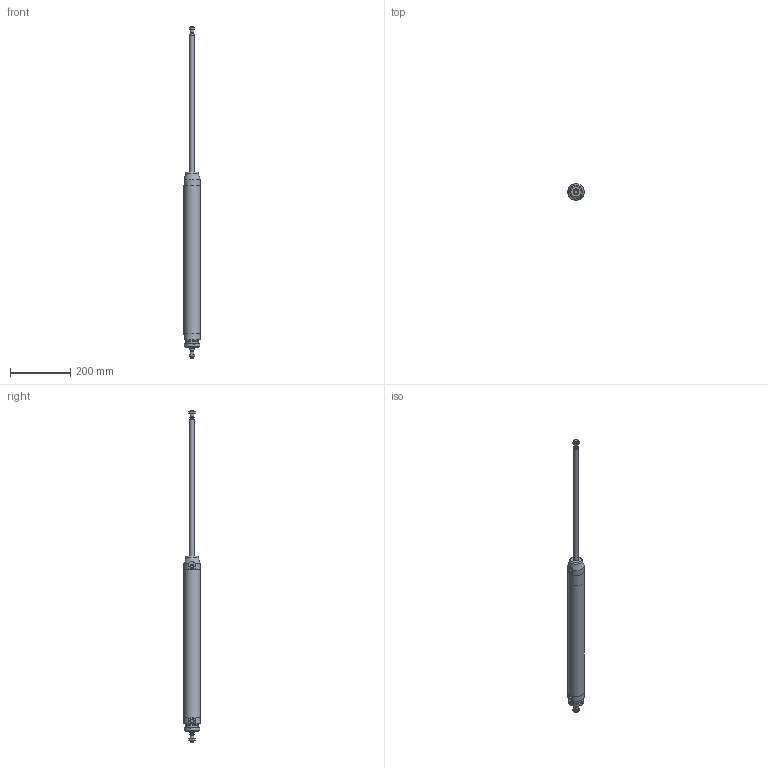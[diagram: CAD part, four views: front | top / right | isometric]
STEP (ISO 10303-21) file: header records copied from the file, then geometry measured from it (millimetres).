
FILE_DESCRIPTION(/* description */ (''),/* implementation_level */ '2;1');
FILE_NAME(/* name */ 'I:\Area Tecnica\Documenti\A-Manieri\_Inventor\12X\12X#T_###_####_#_#\12XCT_050_0450_#_#.stp',/* time_stamp */ '2015-05-13T08:46:41+02:00',/* author */ ('maniean1'),/* organization */ ('Pneumax S.p.A.'),/* preprocessor_version */ 'ST-DEVELOPER v15.2',/* originating_system */ 'Autodesk Inventor 2014',/* authorisation */ '');
FILE_SCHEMA (('AUTOMOTIVE_DESIGN { 1 0 10303 214 3 1 1 }'));
Length unit declared in the file: millimetre
Products named in the file (7): C1250_619-0450; 12X50_604; SP12X50_0450; 12X_50_11; 12X50_613; G12X_050_05; 12XCT_050_0450_#_#
Bounding box: 54 x 54 x 1102 mm (x, y, z)
Volume: 611739.4 mm3; surface area: 256666.8 mm2
Topology: 7 solids, 7 shells, 107 faces, 238 edges, 152 vertices
Faces by surface type: plane 54, cylinder 26, cone 26, torus 1
Full cylindrical faces by diameter (mm): 10.2 x2, 11.4 x2, 12 x4, 14 x2, 15.6 x2, 16 x2, 38.2 x1, 40 x3, 50 x2, 54 x3
Entity records: 2546 total; most frequent: CARTESIAN_POINT 474, DIRECTION 433, ORIENTED_EDGE 338, AXIS2_PLACEMENT_3D 187, EDGE_CURVE 169, EDGE_LOOP 150, VERTEX_POINT 129, ADVANCED_FACE 96
